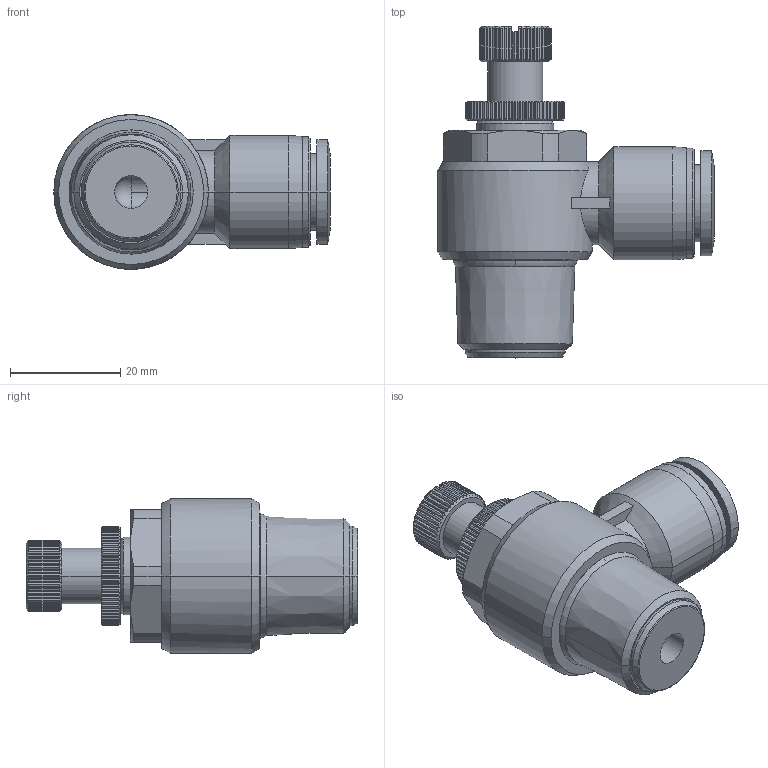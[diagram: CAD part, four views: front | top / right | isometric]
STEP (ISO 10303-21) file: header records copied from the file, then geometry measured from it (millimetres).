
FILE_DESCRIPTION (( 'STEP AP203' ), '1' );
FILE_NAME ('SCL12-04.STEP', '2020-05-12T15:38:47', ( '' ), ( '' ), 'SwSTEP 2.0', 'SolidWorks 2019', '' );
FILE_SCHEMA (( 'CONFIG_CONTROL_DESIGN' ));
Length unit declared in the file: millimetre
Products named in the file (1): SCL12-04
Bounding box: 50.05 x 60.1 x 28 mm (x, y, z)
Volume: 24942.2 mm3; surface area: 8896.7 mm2
Topology: 1 solids, 1 shells, 580 faces, 1405 edges, 838 vertices
Faces by surface type: plane 261, cone 162, cylinder 150, torus 4, bspline 2, sphere 1
Entity records: 16477 total; most frequent: CARTESIAN_POINT 3986, ORIENTED_EDGE 2808, DIRECTION 2573, EDGE_CURVE 1404, AXIS2_PLACEMENT_3D 1066, VERTEX_POINT 838, EDGE_LOOP 594, ADVANCED_FACE 580
